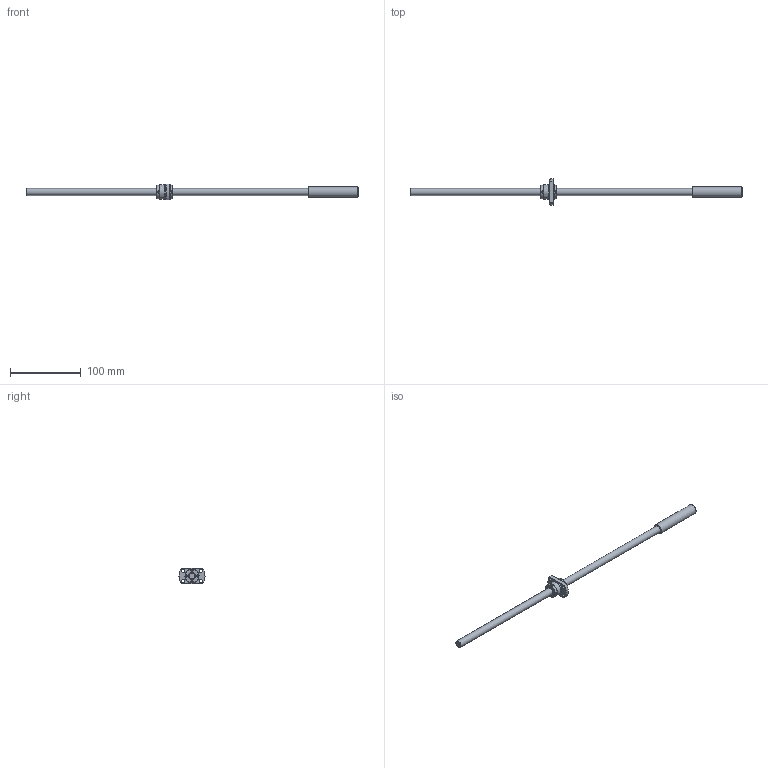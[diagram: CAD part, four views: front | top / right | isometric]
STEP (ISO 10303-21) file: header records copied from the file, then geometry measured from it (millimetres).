
FILE_DESCRIPTION(/* description */ ('STEP AP214'),/* implementation_level */ '2;1');
FILE_NAME(/* name */ 'SRT1020-396R470C7A0X(185None)',/* time_stamp */ '2026-08-06T15:23:57+02:00',/* author */ ('License CC BY-ND 4.0'),/* organization */ ('CADENAS'),/* preprocessor_version */ 'ST-DEVELOPER v20',/* originating_system */ 'PARTsolutions',/* authorisation */ ' ');
FILE_SCHEMA (('AUTOMOTIVE_DESIGN {1 0 10303 214 3 1 1}'));
Length unit declared in the file: millimetre
Products named in the file (3): SRT1020-396R470C7A0X(185None); SRT1020-396R470ACt7None74Shaft; SRT1020Nut
Assembly tree (2 placements, depth 2):
  SRT1020-396R470C7A0X(185None)
    SRT1020-396R470ACt7None74Shaft
    SRT1020Nut
Bounding box: 470 x 37 x 22 mm (x, y, z)
Volume: 49568.6 mm3; surface area: 20090.4 mm2
Topology: 2 solids, 2 shells, 138 faces, 333 edges, 220 vertices
Faces by surface type: plane 99, cylinder 30, cone 9
Full cylindrical faces by diameter (mm): 3 x8, 4.5 x4, 10 x2, 14.2 x1, 19.5 x3, 20 x2
Entity records: 3971 total; most frequent: CARTESIAN_POINT 689, DIRECTION 662, ORIENTED_EDGE 612, EDGE_CURVE 306, AXIS2_PLACEMENT_3D 223, VERTEX_POINT 218, LINE 216, VECTOR 216
